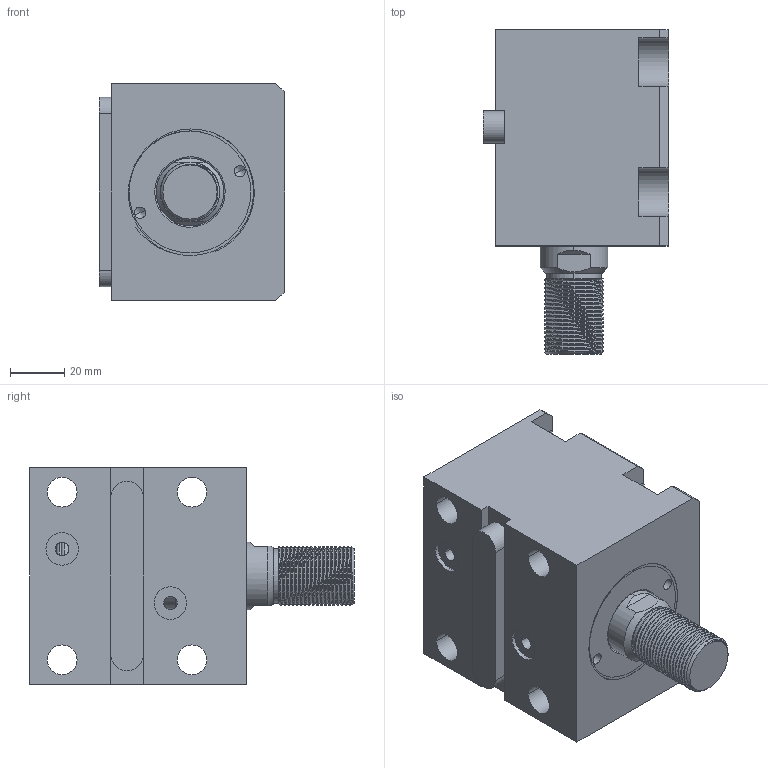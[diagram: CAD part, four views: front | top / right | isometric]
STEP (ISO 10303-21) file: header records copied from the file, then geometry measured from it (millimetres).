
FILE_DESCRIPTION (( 'STEP AP214' ), '1' );
FILE_NAME ('chtb-lam40x25w_asm.STEP', '2018-05-30T02:52:09', ( 'Windows' ), ( 'Microsoft' ), 'SwSTEP 2.0', 'SolidWorks 2015', '' );
FILE_SCHEMA (( 'AUTOMOTIVE_DESIGN' ));
Length unit declared in the file: millimetre
Products named in the file (5): CHTB-SD40X25WHSG; CHTB-SD40QG; CHTB-LAM40X25NBT; CHTB-LA40PJ; chtb-lam40x25w_asm
Assembly tree (4 placements, depth 2):
  chtb-lam40x25w_asm
    CHTB-LA40PJ
    CHTB-LAM40X25NBT
    CHTB-SD40QG
    CHTB-SD40X25WHSG
Bounding box: 68.5 x 120 x 80 mm (x, y, z)
Volume: 371770.9 mm3; surface area: 78377.1 mm2
Topology: 4 solids, 5 shells, 199 faces, 547 edges, 365 vertices
Faces by surface type: cylinder 111, plane 50, bspline 16, torus 12, cone 10
Entity records: 13609 total; most frequent: CARTESIAN_POINT 8674, ORIENTED_EDGE 1082, DIRECTION 894, EDGE_CURVE 541, VERTEX_POINT 365, AXIS2_PLACEMENT_3D 349, EDGE_LOOP 226, FACE_OUTER_BOUND 199
